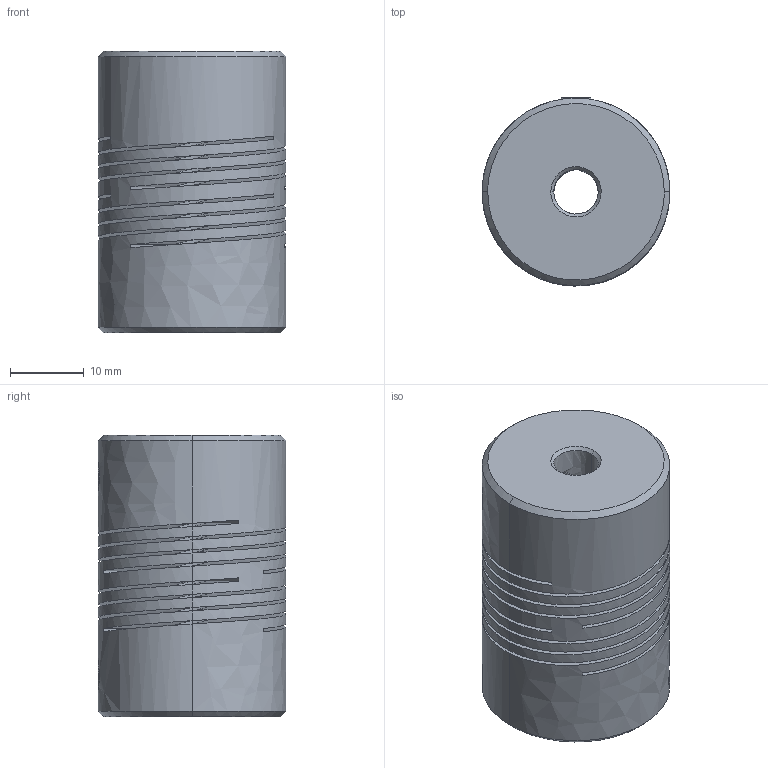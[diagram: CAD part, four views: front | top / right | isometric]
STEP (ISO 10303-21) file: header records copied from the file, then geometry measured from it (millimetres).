
FILE_DESCRIPTION((''),'2;1');
FILE_NAME('730_25','2026-02-24T',('SYSTEM'),(''),'PRO/ENGINEER BY PARAMETRIC TECHNOLOGY CORPORATION, 2016360','PRO/ENGINEER BY PARAMETRIC TECHNOLOGY CORPORATION, 2016360','');
FILE_SCHEMA(('AUTOMOTIVE_DESIGN { 1 0 10303 214 1 1 1 1 }'));
Length unit declared in the file: inch
Products named in the file (1): 730_25
Bounding box: 25.35 x 25.38 x 38.1 mm (x, y, z)
Volume: 15802.8 mm3; surface area: 11663.8 mm2
Topology: 1 solids, 1 shells, 100 faces, 304 edges, 198 vertices
Faces by surface type: bspline 100
Entity records: 7562 total; most frequent: CARTESIAN_POINT 5274, ORIENTED_EDGE 600, EDGE_CURVE 300, B_SPLINE_CURVE_WITH_KNOTS 226, VERTEX_POINT 198, COLOUR_RGB 111, EDGE_LOOP 110, FACE_OUTER_BOUND 100
